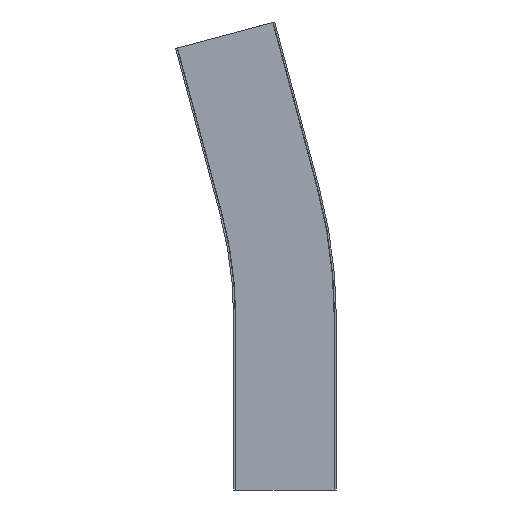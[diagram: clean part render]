
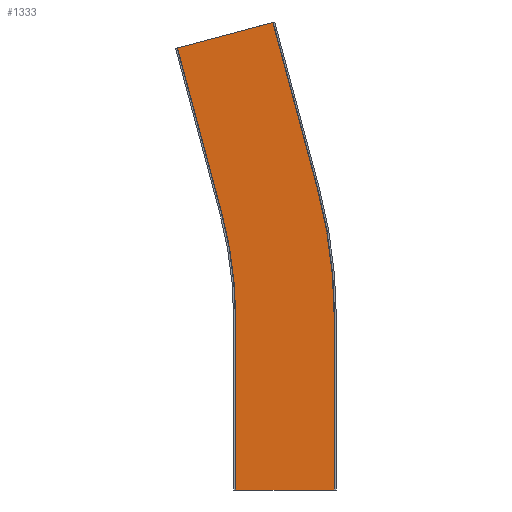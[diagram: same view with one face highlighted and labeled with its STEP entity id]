
A CAD part, front view. The second image highlights one B-rep face of the part: STEP entity #1333.
In plain terms, the highlighted planar face has unit normal (0, -1, 0).
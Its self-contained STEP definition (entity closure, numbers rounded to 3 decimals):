
#12 = PLANE ( 'NONE',  #1955 ) ;
#15 = CARTESIAN_POINT ( 'NONE',  ( -43.15, -42., 150. ) ) ;
#28 = CIRCLE ( 'NONE', #370, 443.15 ) ;
#144 = VERTEX_POINT ( 'NONE', #2847 ) ;
#229 = VECTOR ( 'NONE', #699, 1000. ) ;
#231 = LINE ( 'NONE', #698, #229 ) ;
#370 = AXIS2_PLACEMENT_3D ( 'NONE', #800, #801, #802 ) ;
#376 = AXIS2_PLACEMENT_3D ( 'NONE', #836, #837, #838 ) ;
#601 = VECTOR ( 'NONE', #670, 1000. ) ;
#604 = LINE ( 'NONE', #669, #601 ) ;
#669 = CARTESIAN_POINT ( 'NONE',  ( 28.05, -42., 264.696 ) ) ;
#670 = DIRECTION ( 'NONE',  ( -0.259, 0., 0.966 ) ) ;
#698 = CARTESIAN_POINT ( 'NONE',  ( -55.309, -42., 242.36 ) ) ;
#699 = DIRECTION ( 'NONE',  ( -0.259, 0., 0.966 ) ) ;
#800 = CARTESIAN_POINT ( 'NONE',  ( -400., -42., 150. ) ) ;
#801 = DIRECTION ( 'NONE',  ( 0., -1., 0. ) ) ;
#802 = DIRECTION ( 'NONE',  ( 0., 0., -1. ) ) ;
#836 = CARTESIAN_POINT ( 'NONE',  ( -400., -42., 150. ) ) ;
#837 = DIRECTION ( 'NONE',  ( 0., -1., 0. ) ) ;
#838 = DIRECTION ( 'NONE',  ( 0., 0., -1. ) ) ;
#858 = CIRCLE ( 'NONE', #376, 356.85 ) ;
#1018 = DIRECTION ( 'NONE',  ( 0., 0., -1. ) ) ;
#1022 = CARTESIAN_POINT ( 'NONE',  ( 43.15, -42., 150. ) ) ;
#1023 = DIRECTION ( 'NONE',  ( 0., 0., -1. ) ) ;
#1025 = CARTESIAN_POINT ( 'NONE',  ( -43.15, -42., 150. ) ) ;
#1026 = DIRECTION ( 'NONE',  ( -1., 0., 0. ) ) ;
#1028 = CARTESIAN_POINT ( 'NONE',  ( -94.132, -42., 387.248 ) ) ;
#1041 = CARTESIAN_POINT ( 'NONE',  ( -43.15, -42., 0. ) ) ;
#1333 = ADVANCED_FACE ( 'NONE', ( #2111 ), #12, .T. ) ;
#1409 = DIRECTION ( 'NONE',  ( 1., 0., 0. ) ) ;
#1429 = EDGE_CURVE ( 'NONE', #2541, #2563, #1989, .T. ) ;
#1430 = EDGE_CURVE ( 'NONE', #2567, #2563, #1991, .T. ) ;
#1431 = EDGE_CURVE ( 'NONE', #2521, #2567, #1985, .T. ) ;
#1432 = EDGE_CURVE ( 'NONE', #2575, #2579, #1987, .T. ) ;
#1459 = DIRECTION ( 'NONE',  ( -0.966, 0., -0.259 ) ) ;
#1551 = CARTESIAN_POINT ( 'NONE',  ( 43.15, -42., 150. ) ) ;
#1571 = CARTESIAN_POINT ( 'NONE',  ( -43.15, -42., 150. ) ) ;
#1593 = CARTESIAN_POINT ( 'NONE',  ( -43.15, -42., 0. ) ) ;
#1597 = CARTESIAN_POINT ( 'NONE',  ( 43.15, -42., 0. ) ) ;
#1605 = CARTESIAN_POINT ( 'NONE',  ( -10.773, -42., 409.585 ) ) ;
#1609 = CARTESIAN_POINT ( 'NONE',  ( -94.132, -42., 387.248 ) ) ;
#1615 = CARTESIAN_POINT ( 'NONE',  ( 28.05, -42., 264.696 ) ) ;
#1955 = AXIS2_PLACEMENT_3D ( 'NONE', #15, #2843, #1409 ) ;
#1980 = VECTOR ( 'NONE', #1459, 1000. ) ;
#1982 = VECTOR ( 'NONE', #1018, 1000. ) ;
#1984 = VECTOR ( 'NONE', #1026, 1000. ) ;
#1985 = LINE ( 'NONE', #1022, #1982 ) ;
#1986 = VECTOR ( 'NONE', #1023, 1000. ) ;
#1987 = LINE ( 'NONE', #1028, #1980 ) ;
#1989 = LINE ( 'NONE', #1025, #1986 ) ;
#1991 = LINE ( 'NONE', #1041, #1984 ) ;
#2111 = FACE_OUTER_BOUND ( 'NONE', #2317, .T. ) ;
#2317 = EDGE_LOOP ( 'NONE', ( #2352, #2353, #2354, #2355, #2356, #2357, #2358, #2359 ) ) ;
#2352 = ORIENTED_EDGE ( 'NONE', *, *, #1430, .F. ) ;
#2353 = ORIENTED_EDGE ( 'NONE', *, *, #1431, .F. ) ;
#2354 = ORIENTED_EDGE ( 'NONE', *, *, #3121, .T. ) ;
#2355 = ORIENTED_EDGE ( 'NONE', *, *, #3060, .T. ) ;
#2356 = ORIENTED_EDGE ( 'NONE', *, *, #1432, .T. ) ;
#2357 = ORIENTED_EDGE ( 'NONE', *, *, #3078, .F. ) ;
#2358 = ORIENTED_EDGE ( 'NONE', *, *, #3137, .F. ) ;
#2359 = ORIENTED_EDGE ( 'NONE', *, *, #1429, .T. ) ;
#2521 = VERTEX_POINT ( 'NONE', #1551 ) ;
#2541 = VERTEX_POINT ( 'NONE', #1571 ) ;
#2563 = VERTEX_POINT ( 'NONE', #1593 ) ;
#2567 = VERTEX_POINT ( 'NONE', #1597 ) ;
#2575 = VERTEX_POINT ( 'NONE', #1605 ) ;
#2579 = VERTEX_POINT ( 'NONE', #1609 ) ;
#2585 = VERTEX_POINT ( 'NONE', #1615 ) ;
#2843 = DIRECTION ( 'NONE',  ( 0., -1., 0. ) ) ;
#2847 = CARTESIAN_POINT ( 'NONE',  ( -55.309, -42., 242.36 ) ) ;
#3060 = EDGE_CURVE ( 'Edge42', #2585, #2575, #604, .T. ) ;
#3078 = EDGE_CURVE ( 'NONE', #144, #2579, #231, .T. ) ;
#3121 = EDGE_CURVE ( 'Edge18', #2521, #2585, #28, .T. ) ;
#3137 = EDGE_CURVE ( 'NONE', #2541, #144, #858, .T. ) ;
